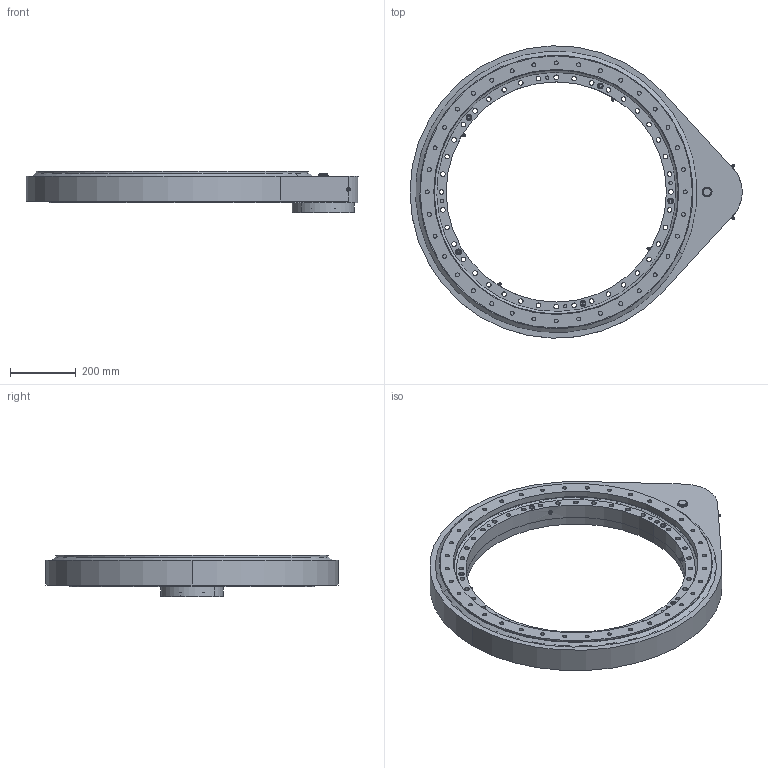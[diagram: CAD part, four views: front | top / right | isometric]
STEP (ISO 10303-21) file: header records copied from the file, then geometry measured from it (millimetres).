
FILE_DESCRIPTION (( 'STEP AP214' ), '1' );
FILE_NAME ('20741.STEP', '2023-03-18T04:09:34', ( '' ), ( '' ), 'SwSTEP 2.0', 'SolidWorks 2021', '' );
FILE_SCHEMA (( 'AUTOMOTIVE_DESIGN' ));
Length unit declared in the file: millimetre
Products named in the file (1): 20741
Bounding box: 1010.14 x 889.65 x 125 mm (x, y, z)
Surface area: 1493978.5 mm2 (no closed solid volume)
Topology: 0 solids, 53 shells, 580 faces, 1992 edges, 1399 vertices
Faces by surface type: cylinder 304, plane 159, torus 53, cone 42, sphere 22
Entity records: 29300 total; most frequent: CARTESIAN_POINT 5350, DIRECTION 3943, ORIENTED_EDGE 3130, EDGE_CURVE 1912, AXIS2_PLACEMENT_3D 1614, VERTEX_POINT 1355, CIRCLE 1033, EDGE_LOOP 876
